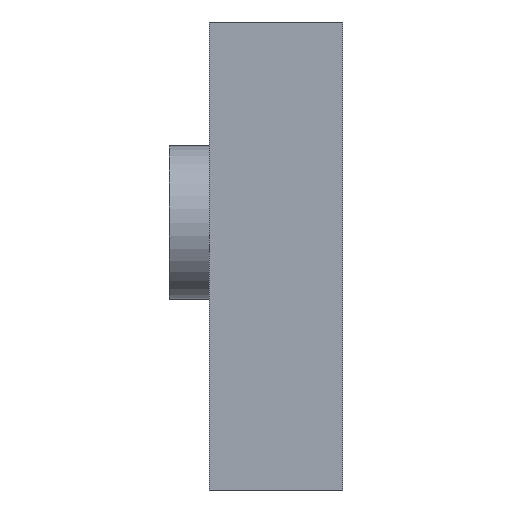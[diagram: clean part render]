
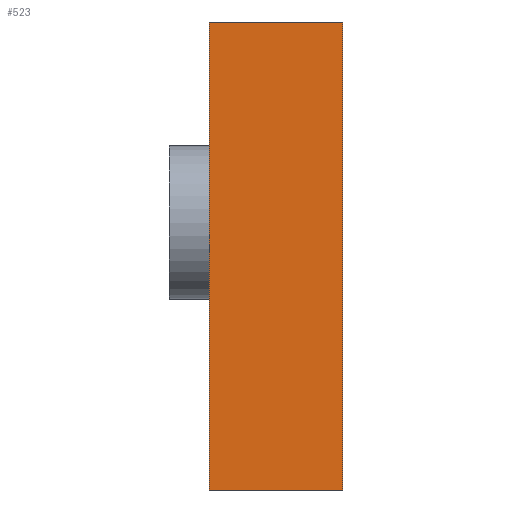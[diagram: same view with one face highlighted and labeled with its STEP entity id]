
A CAD part, front view. The second image highlights one B-rep face of the part: STEP entity #523.
In plain terms, the highlighted planar face has unit normal (0, -1, 0).
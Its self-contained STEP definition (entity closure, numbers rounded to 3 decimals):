
#21 = EDGE_CURVE('',#22,#24,#26,.T.);
#22 = VERTEX_POINT('',#23);
#23 = CARTESIAN_POINT('',(78.944,-23.,4.));
#24 = VERTEX_POINT('',#25);
#25 = CARTESIAN_POINT('',(78.944,-23.,18.));
#26 = SURFACE_CURVE('',#27,(#31,#43),.PCURVE_S1.);
#27 = LINE('',#28,#29);
#28 = CARTESIAN_POINT('',(78.944,-23.,4.));
#29 = VECTOR('',#30,1.);
#30 = DIRECTION('',(0.,0.,1.));
#31 = PCURVE('',#32,#37);
#32 = PLANE('',#33);
#33 = AXIS2_PLACEMENT_3D('',#34,#35,#36);
#34 = CARTESIAN_POINT('',(78.944,-23.,4.));
#35 = DIRECTION('',(1.,0.,0.));
#36 = DIRECTION('',(0.,0.,1.));
#37 = DEFINITIONAL_REPRESENTATION('',(#38),#42);
#38 = LINE('',#39,#40);
#39 = CARTESIAN_POINT('',(0.,0.));
#40 = VECTOR('',#41,1.);
#41 = DIRECTION('',(1.,0.));
#42 = ( GEOMETRIC_REPRESENTATION_CONTEXT(2) 
PARAMETRIC_REPRESENTATION_CONTEXT() REPRESENTATION_CONTEXT('2D SPACE',''
  ) );
#43 = PCURVE('',#44,#49);
#44 = PLANE('',#45);
#45 = AXIS2_PLACEMENT_3D('',#46,#47,#48);
#46 = CARTESIAN_POINT('',(78.944,-23.,4.));
#47 = DIRECTION('',(0.,1.,0.));
#48 = DIRECTION('',(0.,0.,1.));
#49 = DEFINITIONAL_REPRESENTATION('',(#50),#54);
#50 = LINE('',#51,#52);
#51 = CARTESIAN_POINT('',(0.,0.));
#52 = VECTOR('',#53,1.);
#53 = DIRECTION('',(1.,0.));
#54 = ( GEOMETRIC_REPRESENTATION_CONTEXT(2) 
PARAMETRIC_REPRESENTATION_CONTEXT() REPRESENTATION_CONTEXT('2D SPACE',''
  ) );
#72 = PLANE('',#73);
#73 = AXIS2_PLACEMENT_3D('',#74,#75,#76);
#74 = CARTESIAN_POINT('',(78.944,-23.,4.));
#75 = DIRECTION('',(0.,0.,1.));
#76 = DIRECTION('',(1.,0.,0.));
#450 = PLANE('',#451);
#451 = AXIS2_PLACEMENT_3D('',#452,#453,#454);
#452 = CARTESIAN_POINT('',(78.944,-23.,18.));
#453 = DIRECTION('',(0.,0.,1.));
#454 = DIRECTION('',(1.,0.,0.));
#523 = ADVANCED_FACE('',(#524),#44,.F.);
#524 = FACE_BOUND('',#525,.F.);
#525 = EDGE_LOOP('',(#526,#549,#550,#573));
#526 = ORIENTED_EDGE('',*,*,#527,.F.);
#527 = EDGE_CURVE('',#22,#528,#530,.T.);
#528 = VERTEX_POINT('',#529);
#529 = CARTESIAN_POINT('',(82.944,-23.,4.));
#530 = SURFACE_CURVE('',#531,(#535,#542),.PCURVE_S1.);
#531 = LINE('',#532,#533);
#532 = CARTESIAN_POINT('',(78.944,-23.,4.));
#533 = VECTOR('',#534,1.);
#534 = DIRECTION('',(1.,0.,0.));
#535 = PCURVE('',#44,#536);
#536 = DEFINITIONAL_REPRESENTATION('',(#537),#541);
#537 = LINE('',#538,#539);
#538 = CARTESIAN_POINT('',(0.,0.));
#539 = VECTOR('',#540,1.);
#540 = DIRECTION('',(0.,1.));
#541 = ( GEOMETRIC_REPRESENTATION_CONTEXT(2) 
PARAMETRIC_REPRESENTATION_CONTEXT() REPRESENTATION_CONTEXT('2D SPACE',''
  ) );
#542 = PCURVE('',#72,#543);
#543 = DEFINITIONAL_REPRESENTATION('',(#544),#548);
#544 = LINE('',#545,#546);
#545 = CARTESIAN_POINT('',(0.,0.));
#546 = VECTOR('',#547,1.);
#547 = DIRECTION('',(1.,0.));
#548 = ( GEOMETRIC_REPRESENTATION_CONTEXT(2) 
PARAMETRIC_REPRESENTATION_CONTEXT() REPRESENTATION_CONTEXT('2D SPACE',''
  ) );
#549 = ORIENTED_EDGE('',*,*,#21,.T.);
#550 = ORIENTED_EDGE('',*,*,#551,.T.);
#551 = EDGE_CURVE('',#24,#552,#554,.T.);
#552 = VERTEX_POINT('',#553);
#553 = CARTESIAN_POINT('',(82.944,-23.,18.));
#554 = SURFACE_CURVE('',#555,(#559,#566),.PCURVE_S1.);
#555 = LINE('',#556,#557);
#556 = CARTESIAN_POINT('',(78.944,-23.,18.));
#557 = VECTOR('',#558,1.);
#558 = DIRECTION('',(1.,0.,0.));
#559 = PCURVE('',#44,#560);
#560 = DEFINITIONAL_REPRESENTATION('',(#561),#565);
#561 = LINE('',#562,#563);
#562 = CARTESIAN_POINT('',(14.,0.));
#563 = VECTOR('',#564,1.);
#564 = DIRECTION('',(0.,1.));
#565 = ( GEOMETRIC_REPRESENTATION_CONTEXT(2) 
PARAMETRIC_REPRESENTATION_CONTEXT() REPRESENTATION_CONTEXT('2D SPACE',''
  ) );
#566 = PCURVE('',#450,#567);
#567 = DEFINITIONAL_REPRESENTATION('',(#568),#572);
#568 = LINE('',#569,#570);
#569 = CARTESIAN_POINT('',(0.,0.));
#570 = VECTOR('',#571,1.);
#571 = DIRECTION('',(1.,0.));
#572 = ( GEOMETRIC_REPRESENTATION_CONTEXT(2) 
PARAMETRIC_REPRESENTATION_CONTEXT() REPRESENTATION_CONTEXT('2D SPACE',''
  ) );
#573 = ORIENTED_EDGE('',*,*,#574,.F.);
#574 = EDGE_CURVE('',#528,#552,#575,.T.);
#575 = SURFACE_CURVE('',#576,(#580,#587),.PCURVE_S1.);
#576 = LINE('',#577,#578);
#577 = CARTESIAN_POINT('',(82.944,-23.,4.));
#578 = VECTOR('',#579,1.);
#579 = DIRECTION('',(0.,0.,1.));
#580 = PCURVE('',#44,#581);
#581 = DEFINITIONAL_REPRESENTATION('',(#582),#586);
#582 = LINE('',#583,#584);
#583 = CARTESIAN_POINT('',(0.,4.));
#584 = VECTOR('',#585,1.);
#585 = DIRECTION('',(1.,0.));
#586 = ( GEOMETRIC_REPRESENTATION_CONTEXT(2) 
PARAMETRIC_REPRESENTATION_CONTEXT() REPRESENTATION_CONTEXT('2D SPACE',''
  ) );
#587 = PCURVE('',#588,#593);
#588 = PLANE('',#589);
#589 = AXIS2_PLACEMENT_3D('',#590,#591,#592);
#590 = CARTESIAN_POINT('',(82.944,-23.,4.));
#591 = DIRECTION('',(1.,0.,0.));
#592 = DIRECTION('',(0.,0.,1.));
#593 = DEFINITIONAL_REPRESENTATION('',(#594),#598);
#594 = LINE('',#595,#596);
#595 = CARTESIAN_POINT('',(0.,0.));
#596 = VECTOR('',#597,1.);
#597 = DIRECTION('',(1.,0.));
#598 = ( GEOMETRIC_REPRESENTATION_CONTEXT(2) 
PARAMETRIC_REPRESENTATION_CONTEXT() REPRESENTATION_CONTEXT('2D SPACE',''
  ) );
